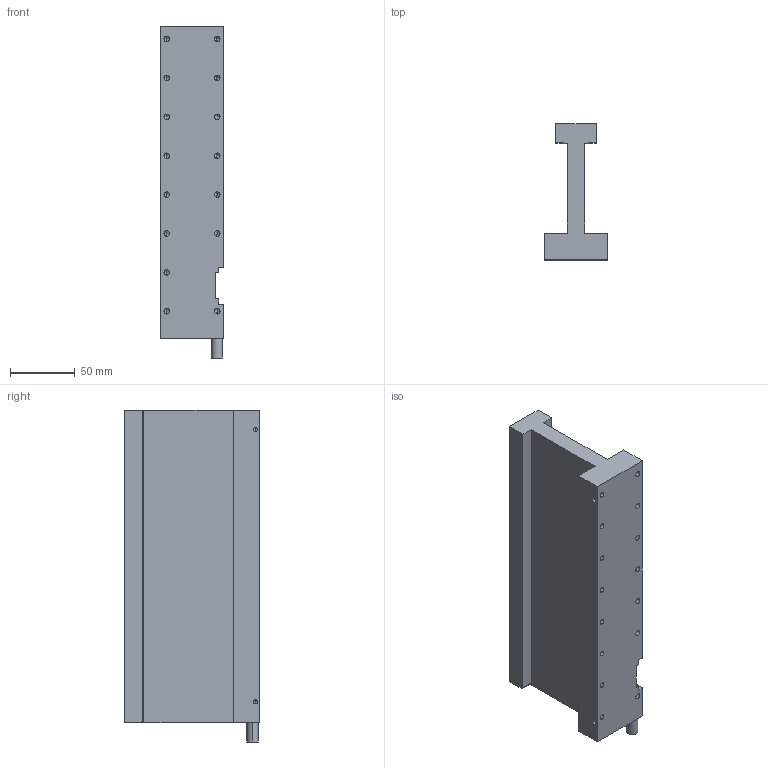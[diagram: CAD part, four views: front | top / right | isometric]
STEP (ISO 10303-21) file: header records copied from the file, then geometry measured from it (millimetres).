
FILE_DESCRIPTION (( 'STEP AP214' ), '1' );
FILE_NAME ('JKA54.STEP', '2025-09-05T08:49:20', ( '' ), ( '' ), 'SwSTEP 2.0', 'SolidWorks 2016', '' );
FILE_SCHEMA (( 'AUTOMOTIVE_DESIGN' ));
Length unit declared in the file: millimetre
Products named in the file (1): JKA54
Bounding box: 49 x 104.8 x 256 mm (x, y, z)
Volume: 566860.6 mm3; surface area: 90988.8 mm2
Topology: 1 solids, 1 shells, 123 faces, 319 edges, 177 vertices
Faces by surface type: cylinder 52, cone 42, plane 29
Entity records: 3957 total; most frequent: CARTESIAN_POINT 624, DIRECTION 619, ORIENTED_EDGE 554, EDGE_CURVE 277, AXIS2_PLACEMENT_3D 224, VERTEX_POINT 177, VECTOR 171, LINE 171
